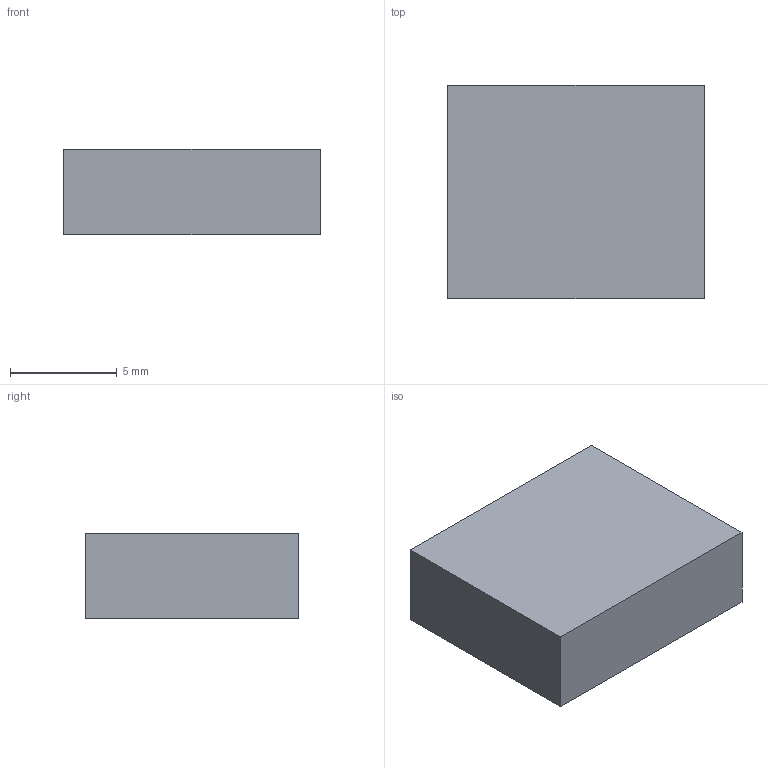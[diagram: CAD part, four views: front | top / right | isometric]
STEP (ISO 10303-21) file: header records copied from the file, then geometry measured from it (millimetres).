
FILE_DESCRIPTION(('Open CASCADE Model'),'2;1');
FILE_NAME('Open CASCADE Shape Model','2000-01-01T00:00:00',('Author'),( 'Open CASCADE'),'Open CASCADE STEP processor 7.9','Open CASCADE 7.9' ,'Unknown');
FILE_SCHEMA(('AUTOMOTIVE_DESIGN { 1 0 10303 214 1 1 1 1 }'));
Length unit declared in the file: millimetre
Products named in the file (1): Open CASCADE STEP translator 7.9 1
Bounding box: 12 x 10 x 4 mm (x, y, z)
Volume: 480 mm3; surface area: 416 mm2
Topology: 1 solids, 1 shells, 6 faces, 12 edges, 8 vertices
Faces by surface type: plane 6
Entity records: 322 total; most frequent: CARTESIAN_POINT 51, DIRECTION 50, LINE 36, VECTOR 36, ORIENTED_EDGE 24, PCURVE 24, DEFINITIONAL_REPRESENTATION 24, EDGE_CURVE 12
